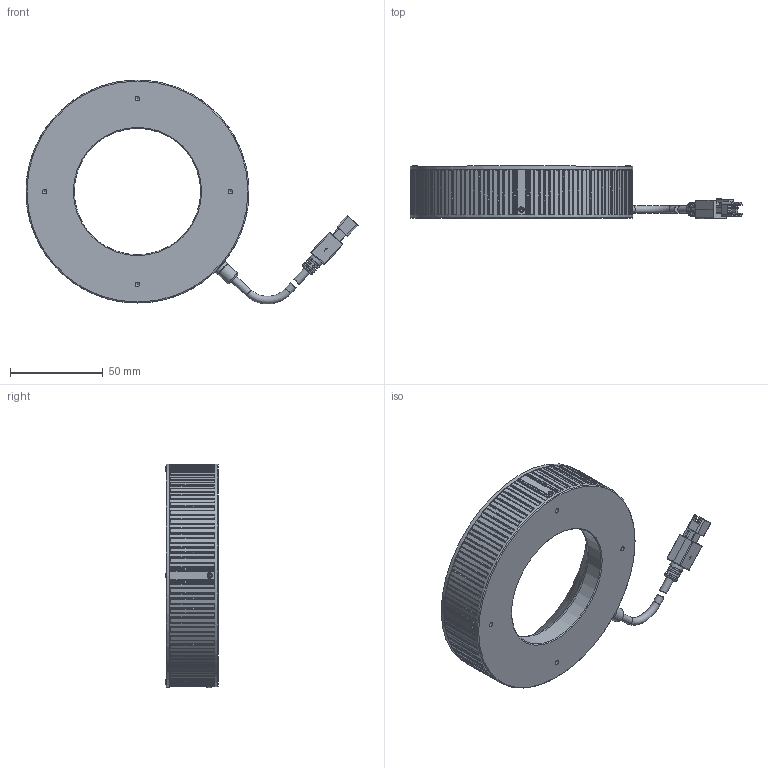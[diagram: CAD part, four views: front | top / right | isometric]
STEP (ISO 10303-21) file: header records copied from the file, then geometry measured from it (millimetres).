
FILE_DESCRIPTION (( 'STEP AP203' ), '1' );
FILE_NAME ('OPT-RI12045-X-V4.1U尨砩芞.STEP', '2024-12-12T12:31:31', ( '' ), ( '' ), 'SwSTEP 2.0', 'SolidWorks 2016', '' );
FILE_SCHEMA (( 'CONFIG_CONTROL_DESIGN' ));
Length unit declared in the file: millimetre
Products named in the file (1): OPT-RI12045-X-V4.1U尨砩芞
Bounding box: 178.69 x 28.85 x 120.51 mm (x, y, z)
Volume: 132932 mm3; surface area: 63431.2 mm2
Topology: 12 solids, 13 shells, 1075 faces, 2904 edges, 1876 vertices
Faces by surface type: plane 528, cylinder 408, cone 106, bspline 21, torus 12
Full cylindrical faces by diameter (mm): 1.1 x4, 1.4 x8, 1.6 x4, 1.8 x4, 2 x4, 2.2 x4, 2.5 x4, 2.6 x4, 3.5 x1, 4.1 x4, 5.8 x1, 7.5 x2, 8 x1, 68 x1, 70.4 x1, 77.5 x1, 112 x1, 116 x1, 120 x2
Entity records: 35052 total; most frequent: CARTESIAN_POINT 9253, ORIENTED_EDGE 5546, DIRECTION 5006, EDGE_CURVE 2773, VERTEX_POINT 1849, AXIS2_PLACEMENT_3D 1804, VECTOR 1398, LINE 1398
